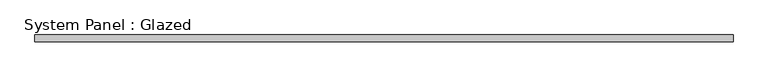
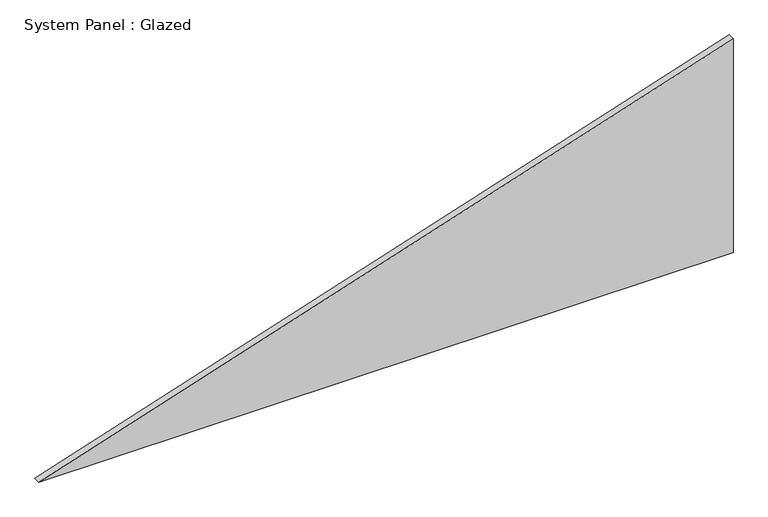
"""IFC4 building model written with IfcOpenShell, lengths in millimetres: plate geometry, System Panel : Glazed."""

from ifc_helpers import new_model, si_unit, frame, origin, place, context, project, spatial, polyline, outline, extrude, source, transform, mapped, element, save


def system_panel_glazed_e4423f37(model_context):
    return source(origin(), model_context, "Body", "SweptSolid", [
        extrude(outline(polyline([(0.0, -1266.0407279), (0.0, 1266.0407279), (824.3015768, 1266.0407279), (0.0, -1266.0407279)])), frame((0.0, 19.05, 0.0), z_axis=(0.0, 1.0, 0.0), x_axis=(0.0, 0.0, 1.0)), (0.0, 0.0, 1.0), 25.4),
    ])


if __name__ == "__main__":
    model = new_model("IFC4")
    model_context = context("Model", 3, world=origin())
    ifc_project = project(units=[si_unit("LENGTHUNIT", "METRE", prefix="MILLI")], contexts=[model_context])
    site = spatial("IfcSite", under=ifc_project)
    building = spatial("IfcBuilding", under=site)
    placement = place(None, origin())
    system_panel_glazed_shape = system_panel_glazed_e4423f37(model_context)
    element("IfcPlate", 1, ObjectType="System Panel : Glazed", at=placement, inside=building, context=model_context, shape_type="MappedRepresentation", body=[
        mapped(system_panel_glazed_shape, transform((0.0, 0.0, 0.0), x_axis=(1.0, 0.0, 0.0), y_axis=(0.0, 1.0, 0.0), z_axis=(0.0, 0.0, 1.0))),
    ])
    save(model, "model.ifc")
